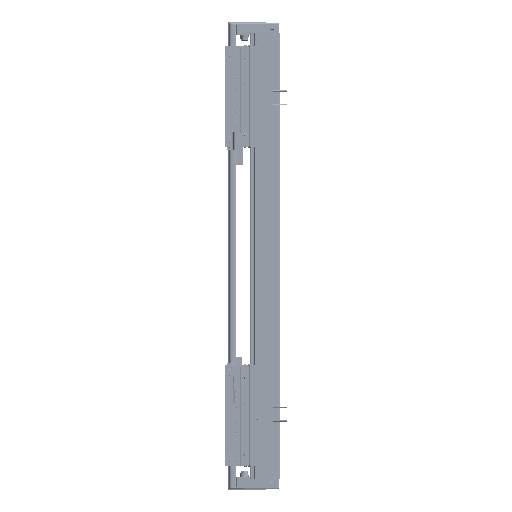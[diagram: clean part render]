
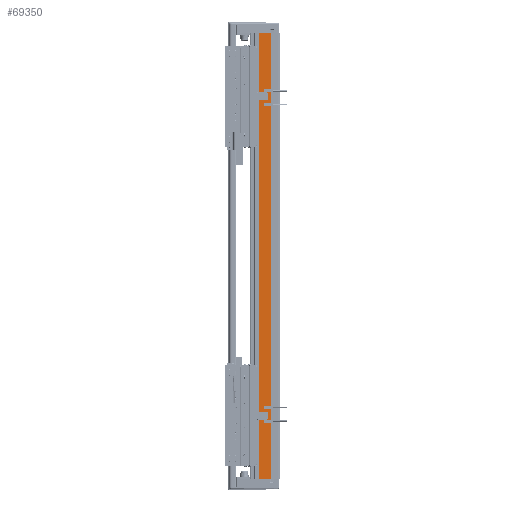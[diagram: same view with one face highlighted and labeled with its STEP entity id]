
A CAD part, left-side view. The second image highlights one B-rep face of the part: STEP entity #69350.
In plain terms, the highlighted planar face has unit normal (-1, 0, 0).
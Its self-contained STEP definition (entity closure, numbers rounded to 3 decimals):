
#3665 = EDGE_CURVE ( 'NONE', #74202, #15877, #101056, .T. ) ;
#3713 = VECTOR ( 'NONE', #62464, 1000. ) ;
#5483 = LINE ( 'NONE', #133552, #141572 ) ;
#9428 = CARTESIAN_POINT ( 'NONE',  ( -97.5, 36.95, 420. ) ) ;
#10948 = EDGE_LOOP ( 'NONE', ( #15617, #118637, #142934, #34491 ) ) ;
#15617 = ORIENTED_EDGE ( 'NONE', *, *, #3665, .T. ) ;
#15877 = VERTEX_POINT ( 'NONE', #121402 ) ;
#16488 = LINE ( 'NONE', #132525, #3713 ) ;
#24778 = DIRECTION ( 'NONE',  ( 0., -1., 0. ) ) ;
#34491 = ORIENTED_EDGE ( 'NONE', *, *, #145325, .T. ) ;
#38298 = DIRECTION ( 'NONE',  ( 1., 0., 0. ) ) ;
#44307 = EDGE_CURVE ( 'NONE', #57883, #15877, #5483, .T. ) ;
#50974 = CARTESIAN_POINT ( 'NONE',  ( -97.5, 36.95, -420. ) ) ;
#51600 = VECTOR ( 'NONE', #121496, 1000. ) ;
#57883 = VERTEX_POINT ( 'NONE', #98458 ) ;
#62464 = DIRECTION ( 'NONE',  ( 0., 0., -1. ) ) ;
#69350 = ADVANCED_FACE ( 'NONE', ( #119725 ), #129534, .F. ) ;
#74202 = VERTEX_POINT ( 'NONE', #50974 ) ;
#83524 = DIRECTION ( 'NONE',  ( 0., 1., 0. ) ) ;
#92627 = LINE ( 'NONE', #115991, #99888 ) ;
#94862 = CARTESIAN_POINT ( 'NONE',  ( -97.5, 36.95, 420. ) ) ;
#98458 = CARTESIAN_POINT ( 'NONE',  ( -97.5, 14.45, 420. ) ) ;
#99888 = VECTOR ( 'NONE', #24778, 1000. ) ;
#100737 = AXIS2_PLACEMENT_3D ( 'NONE', #94862, #38298, #83524 ) ;
#101056 = LINE ( 'NONE', #135775, #51600 ) ;
#111795 = EDGE_CURVE ( 'NONE', #134432, #57883, #92627, .T. ) ;
#115991 = CARTESIAN_POINT ( 'NONE',  ( -97.5, 36.95, 420. ) ) ;
#118637 = ORIENTED_EDGE ( 'NONE', *, *, #44307, .F. ) ;
#119725 = FACE_OUTER_BOUND ( 'NONE', #10948, .T. ) ;
#121402 = CARTESIAN_POINT ( 'NONE',  ( -97.5, 14.45, -420. ) ) ;
#121496 = DIRECTION ( 'NONE',  ( 0., -1., 0. ) ) ;
#122243 = DIRECTION ( 'NONE',  ( 0., 0., -1. ) ) ;
#129534 = PLANE ( 'NONE',  #100737 ) ;
#132525 = CARTESIAN_POINT ( 'NONE',  ( -97.5, 36.95, 420. ) ) ;
#133552 = CARTESIAN_POINT ( 'NONE',  ( -97.5, 14.45, 420. ) ) ;
#134432 = VERTEX_POINT ( 'NONE', #9428 ) ;
#135775 = CARTESIAN_POINT ( 'NONE',  ( -97.5, 36.95, -420. ) ) ;
#141572 = VECTOR ( 'NONE', #122243, 1000. ) ;
#142934 = ORIENTED_EDGE ( 'NONE', *, *, #111795, .F. ) ;
#145325 = EDGE_CURVE ( 'NONE', #134432, #74202, #16488, .T. ) ;
